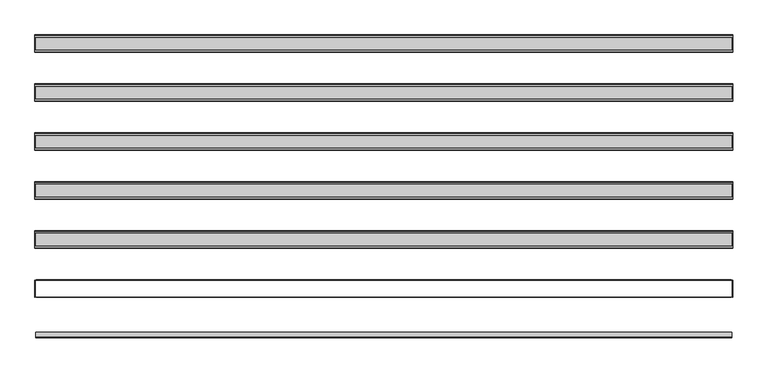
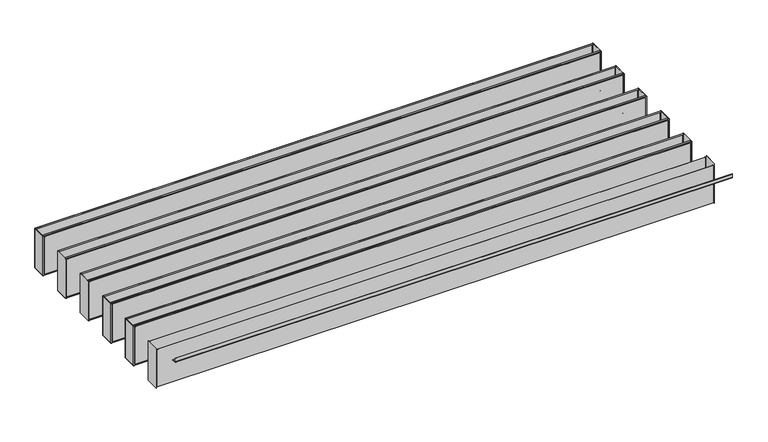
"""IFC4 building model written with IfcOpenShell, lengths in millimetres: proxy geometry, durlum_POLYLAM : durlum_POLYLAM 100."""

from ifc_helpers import new_model, si_unit, point, frame, frame_2d, origin, place, context, project, spatial, polyline, circle_curve, trimmed, segment, composite_curve, outline, extrude, source, transform, mapped, element, save
from ifc_brep_helpers import plane_surface, cylinder_surface, advanced_brep


def generic_models_e4749aa9(model_context):
    return source(origin(), model_context, "Body", "SolidModel", [
        extrude(outline(composite_curve([segment(polyline([(2.0, 2079.9), (2.0, 2054.0)]), True, "CONTINUOUS"), segment(trimmed(circle_curve(frame_2d((4.0, 2054.0)), 2.0), [point((2.0, 2054.0))], [point((4.0, 2052.0))], True, "CARTESIAN"), True, "CONTINUOUS"), segment(polyline([(4.0, 2052.0), (29.9, 2052.0), (29.9, 2050.0), (4.0, 2050.0)]), True, "CONTINUOUS"), segment(trimmed(circle_curve(frame_2d((4.0, 2054.0)), 4.0), [point((4.0, 2050.0))], [point((0.0, 2054.0))], False, "CARTESIAN"), True, "CONTINUOUS"), segment(polyline([(0.0, 2054.0), (0.0, 2079.9), (2.0, 2079.9)]), True, "CONTINUOUS")], self_intersect=False)), frame((-1990.0, 0.0, 0.0), z_axis=(1.0, 0.0, 0.0), x_axis=(0.0, 1.0, 0.0)), (0.0, 0.0, 1.0), 3980.0),
        extrude(outline(polyline([(1986.5, 1729.0), (-1986.5, 1729.0), (-1986.5, 1730.0), (1986.5, 1730.0), (1986.5, 1729.0)])), frame((0.0, 0.0, 1725.4), z_axis=(0.0, 0.0, 1.0), x_axis=(1.0, 0.0, 0.0)), (0.0, 0.0, 1.0), 283.0),
        extrude(outline(polyline([(1986.5, 1630.0), (-1986.5, 1630.0), (-1986.5, 1631.0), (1986.5, 1631.0), (1986.5, 1630.0)])), frame((0.0, 0.0, 1725.4), z_axis=(0.0, 0.0, 1.0), x_axis=(1.0, 0.0, 0.0)), (0.0, 0.0, 1.0), 283.0),
        extrude(outline(polyline([(1993.0, 1729.0), (1995.0, 1729.0), (1995.0, 1631.0), (1993.0, 1631.0), (1993.0, 1729.0)])), frame((0.0, 0.0, 1717.9), z_axis=(0.0, 0.0, 1.0), x_axis=(1.0, 0.0, 0.0)), (0.0, 0.0, 1.0), 298.0),
        extrude(outline(polyline([(-1995.0, 1729.0), (-1993.0, 1729.0), (-1993.0, 1631.0), (-1995.0, 1631.0), (-1995.0, 1729.0)])), frame((0.0, 0.0, 1717.9), z_axis=(0.0, 0.0, 1.0), x_axis=(1.0, 0.0, 0.0)), (0.0, 0.0, 1.0), 298.0),
        advanced_brep(
        [(1995.0, 1728.0, 2016.9), (1995.0, 1718.0, 2016.9), (1995.0, 1718.0, 2015.9), (1995.0, 1729.0, 2015.9), (1995.0, 1729.0, 1717.9), (1995.0, 1631.0, 1717.9), (1995.0, 1631.0, 2015.8155735), (1995.0, 1642.0, 2015.8155735), (1995.0, 1642.0, 2016.9), (1995.0, 1632.0, 2016.9), (1995.0, 1630.0, 2014.9), (1995.0, 1630.0, 1718.9), (1995.0, 1632.0, 1716.9), (1995.0, 1728.0, 1716.9), (1995.0, 1730.0, 1718.9), (1995.0, 1730.0, 2014.9), (-1995.0, 1728.0, 2016.9), (-1995.0, 1730.0, 2014.9), (-1995.0, 1730.0, 1718.9), (-1995.0, 1728.0, 1716.9), (-1995.0, 1632.0, 1716.9), (-1995.0, 1630.0, 1718.9), (-1995.0, 1630.0, 2014.9), (-1995.0, 1632.0, 2016.9), (-1995.0, 1642.0, 2016.9), (-1995.0, 1642.0, 2015.8155735), (-1995.0, 1631.0, 2015.8155735), (-1995.0, 1631.0, 1717.9), (-1995.0, 1729.0, 1717.9), (-1995.0, 1729.0, 2015.9), (-1995.0, 1718.0, 2015.9), (-1995.0, 1718.0, 2016.9), (-1986.5, 1729.0, 2008.4), (1986.5, 1729.0, 2008.4), (1986.5, 1729.0, 1725.4), (-1986.5, 1729.0, 1725.4), (1986.5, 1631.0, 2008.4), (-1986.5, 1631.0, 2008.4), (-1986.5, 1631.0, 1725.4), (1986.5, 1631.0, 1725.4), (-1986.5, 1630.0, 2008.4), (1986.5, 1630.0, 2008.4), (1986.5, 1630.0, 1725.4), (-1986.5, 1630.0, 1725.4), (1986.5, 1730.0, 2008.4), (-1986.5, 1730.0, 2008.4), (-1986.5, 1730.0, 1725.4), (1986.5, 1730.0, 1725.4)],
        [
            (0, 1),
            (1, 2),
            (2, 3),
            (3, 4),
            (4, 5),
            (5, 6),
            (6, 7),
            (7, 8),
            (8, 9),
            (9, 10, circle_curve(frame((1995.0, 1632.0, 2014.9), z_axis=(1.0, 0.0, 0.0), x_axis=(0.0, 1.0, 0.0)), 2.0)),
            (10, 11),
            (11, 12, circle_curve(frame((1995.0, 1632.0, 1718.9), z_axis=(1.0, 0.0, 0.0), x_axis=(0.0, 1.0, 0.0)), 2.0)),
            (12, 13),
            (13, 14, circle_curve(frame((1995.0, 1728.0, 1718.9), z_axis=(1.0, 0.0, 0.0), x_axis=(0.0, 1.0, 0.0)), 2.0)),
            (14, 15),
            (15, 0, circle_curve(frame((1995.0, 1728.0, 2014.9), z_axis=(1.0, 0.0, 0.0), x_axis=(0.0, 1.0, 0.0)), 2.0)),
            (16, 17, circle_curve(frame((-1995.0, 1728.0, 2014.9), z_axis=(-1.0, 0.0, 0.0), x_axis=(0.0, 1.0, 0.0)), 2.0)),
            (17, 18),
            (18, 19, circle_curve(frame((-1995.0, 1728.0, 1718.9), z_axis=(-1.0, 0.0, 0.0), x_axis=(0.0, 1.0, 0.0)), 2.0)),
            (19, 20),
            (20, 21, circle_curve(frame((-1995.0, 1632.0, 1718.9), z_axis=(-1.0, 0.0, 0.0), x_axis=(0.0, 1.0, 0.0)), 2.0)),
            (21, 22),
            (22, 23, circle_curve(frame((-1995.0, 1632.0, 2014.9), z_axis=(-1.0, 0.0, 0.0), x_axis=(0.0, 1.0, 0.0)), 2.0)),
            (23, 24),
            (24, 25),
            (25, 26),
            (26, 27),
            (27, 28),
            (28, 29),
            (29, 30),
            (30, 31),
            (31, 16),
            (0, 16),
            (31, 1),
            (30, 2),
            (29, 3),
            (28, 4),
            (32, 33),
            (33, 34),
            (34, 35),
            (35, 32),
            (27, 5),
            (26, 6),
            (36, 37),
            (37, 38),
            (38, 39),
            (39, 36),
            (25, 7),
            (24, 8),
            (23, 9),
            (10, 22),
            (21, 11),
            (40, 41),
            (41, 42),
            (42, 43),
            (43, 40),
            (12, 20),
            (19, 13),
            (14, 18),
            (17, 15),
            (44, 45),
            (45, 46),
            (46, 47),
            (47, 44),
            (44, 33),
            (32, 45),
            (36, 41),
            (40, 37),
            (35, 46),
            (43, 38),
            (34, 47),
            (42, 39),
        ],
        [
            plane_surface(frame((1995.0, 1718.0, 2016.9), z_axis=(1.0, 0.0, 0.0), x_axis=(0.0, -1.0, 0.0))),
            plane_surface(frame((-1995.0, 1718.0, 2016.9), z_axis=(-1.0, 0.0, 0.0), x_axis=(0.0, 1.0, 0.0))),
            plane_surface(frame((1995.0, 1728.0, 2016.9), z_axis=(0.0, 0.0, 1.0), x_axis=(-1.0, 0.0, 0.0))),
            plane_surface(frame((1995.0, 1718.0, 2016.9), z_axis=(0.0, -1.0, 0.0), x_axis=(-1.0, 0.0, 0.0))),
            plane_surface(frame((1995.0, 1718.0, 2015.9), z_axis=(0.0, 0.0, -1.0), x_axis=(-1.0, 0.0, 0.0))),
            plane_surface(frame((1995.0, 1729.0, 2015.9), z_axis=(0.0, -1.0, 0.0), x_axis=(-1.0, 0.0, 0.0))),
            plane_surface(frame((1995.0, 1729.0, 1717.9), z_axis=(0.0, 0.0, 1.0), x_axis=(-1.0, 0.0, 0.0))),
            plane_surface(frame((1995.0, 1631.0, 1717.9), z_axis=(0.0, 1.0, 0.0), x_axis=(-1.0, 0.0, 0.0))),
            plane_surface(frame((1995.0, 1631.0, 2015.8155735), z_axis=(0.0, 0.0, -1.0), x_axis=(-1.0, 0.0, 0.0))),
            plane_surface(frame((1995.0, 1642.0, 2015.8155735), z_axis=(0.0, 1.0, 0.0), x_axis=(-1.0, 0.0, 0.0))),
            plane_surface(frame((1995.0, 1642.0, 2016.9), z_axis=(0.0, 0.0, 1.0), x_axis=(-1.0, 0.0, 0.0))),
            plane_surface(frame((1995.0, 1630.0, 2014.9), z_axis=(0.0, -1.0, 0.0), x_axis=(-1.0, 0.0, 0.0))),
            plane_surface(frame((1995.0, 1632.0, 1716.9), z_axis=(0.0, 0.0, -1.0), x_axis=(-1.0, 0.0, 0.0))),
            plane_surface(frame((1995.0, 1730.0, 1718.9), z_axis=(0.0, 1.0, 0.0), x_axis=(-1.0, 0.0, 0.0))),
            cylinder_surface(frame((-1995.0, 1632.0, 2014.9), z_axis=(1.0, 0.0, 0.0), x_axis=(0.0, 1.0, 0.0)), 2.0),
            cylinder_surface(frame((-1995.0, 1632.0, 1718.9), z_axis=(1.0, 0.0, 0.0), x_axis=(0.0, 1.0, 0.0)), 2.0),
            cylinder_surface(frame((-1995.0, 1728.0, 1718.9), z_axis=(1.0, 0.0, 0.0), x_axis=(0.0, 1.0, 0.0)), 2.0),
            cylinder_surface(frame((-1995.0, 1728.0, 2014.9), z_axis=(1.0, 0.0, 0.0), x_axis=(0.0, 1.0, 0.0)), 2.0),
            plane_surface(frame((1986.5, 1630.0, 2008.4), z_axis=(0.0, 0.0, -1.0), x_axis=(0.0, 1.0, 0.0))),
            plane_surface(frame((-1986.5, 1630.0, 2008.4), z_axis=(1.0, 0.0, 0.0), x_axis=(0.0, 1.0, 0.0))),
            plane_surface(frame((-1986.5, 1630.0, 1725.4), z_axis=(0.0, 0.0, 1.0), x_axis=(0.0, 1.0, 0.0))),
            plane_surface(frame((1986.5, 1630.0, 1725.4), z_axis=(-1.0, 0.0, 0.0), x_axis=(0.0, 1.0, 0.0))),
        ],
        [
            (0, [[1, 2, 3, 4, 5, 6, 7, 8, 9, 10, 11, 12, 13, 14, 15, 16]]),
            (1, [[17, 18, 19, 20, 21, 22, 23, 24, 25, 26, 27, 28, 29, 30, 31, 32]]),
            (2, [[-1, 33, -32, 34]]),
            (3, [[-2, -34, -31, 35]]),
            (4, [[-3, -35, -30, 36]]),
            (5, [[-4, -36, -29, 37], [38, 39, 40, 41]]),
            (6, [[-5, -37, -28, 42]]),
            (7, [[-6, -42, -27, 43], [44, 45, 46, 47]]),
            (8, [[-7, -43, -26, 48]]),
            (9, [[-8, -48, -25, 49]]),
            (10, [[-9, -49, -24, 50]]),
            (11, [[-11, 51, -22, 52], [53, 54, 55, 56]]),
            (12, [[-13, 57, -20, 58]]),
            (13, [[-15, 59, -18, 60], [61, 62, 63, 64]]),
            (14, [[-10, -50, -23, -51]]),
            (15, [[-12, -52, -21, -57]]),
            (16, [[-14, -58, -19, -59]]),
            (17, [[-16, -60, -17, -33]]),
            (18, [[65, -38, 66, -61]]),
            (18, [[67, -53, 68, -44]]),
            (19, [[-66, -41, 69, -62]]),
            (19, [[-68, -56, 70, -45]]),
            (20, [[-69, -40, 71, -63]]),
            (20, [[-70, -55, 72, -46]]),
            (21, [[-65, -64, -71, -39]]),
            (21, [[-67, -47, -72, -54]]),
        ],
    ),
        extrude(outline(polyline([(1986.5, 1449.0), (-1986.5, 1449.0), (-1986.5, 1450.0), (1986.5, 1450.0), (1986.5, 1449.0)])), frame((0.0, 0.0, 1725.4), z_axis=(0.0, 0.0, 1.0), x_axis=(1.0, 0.0, 0.0)), (0.0, 0.0, 1.0), 283.0),
        extrude(outline(polyline([(1986.5, 1350.0), (-1986.5, 1350.0), (-1986.5, 1351.0), (1986.5, 1351.0), (1986.5, 1350.0)])), frame((0.0, 0.0, 1725.4), z_axis=(0.0, 0.0, 1.0), x_axis=(1.0, 0.0, 0.0)), (0.0, 0.0, 1.0), 283.0),
        extrude(outline(polyline([(1993.0, 1449.0), (1995.0, 1449.0), (1995.0, 1351.0), (1993.0, 1351.0), (1993.0, 1449.0)])), frame((0.0, 0.0, 1717.9), z_axis=(0.0, 0.0, 1.0), x_axis=(1.0, 0.0, 0.0)), (0.0, 0.0, 1.0), 298.0),
        extrude(outline(polyline([(-1995.0, 1449.0), (-1993.0, 1449.0), (-1993.0, 1351.0), (-1995.0, 1351.0), (-1995.0, 1449.0)])), frame((0.0, 0.0, 1717.9), z_axis=(0.0, 0.0, 1.0), x_axis=(1.0, 0.0, 0.0)), (0.0, 0.0, 1.0), 298.0),
        advanced_brep(
        [(1995.0, 1448.0, 2016.9), (1995.0, 1438.0, 2016.9), (1995.0, 1438.0, 2015.9), (1995.0, 1449.0, 2015.9), (1995.0, 1449.0, 1717.9), (1995.0, 1351.0, 1717.9), (1995.0, 1351.0, 2015.8155735), (1995.0, 1362.0, 2015.8155735), (1995.0, 1362.0, 2016.9), (1995.0, 1352.0, 2016.9), (1995.0, 1350.0, 2014.9), (1995.0, 1350.0, 1718.9), (1995.0, 1352.0, 1716.9), (1995.0, 1448.0, 1716.9), (1995.0, 1450.0, 1718.9), (1995.0, 1450.0, 2014.9), (-1995.0, 1448.0, 2016.9), (-1995.0, 1450.0, 2014.9), (-1995.0, 1450.0, 1718.9), (-1995.0, 1448.0, 1716.9), (-1995.0, 1352.0, 1716.9), (-1995.0, 1350.0, 1718.9), (-1995.0, 1350.0, 2014.9), (-1995.0, 1352.0, 2016.9), (-1995.0, 1362.0, 2016.9), (-1995.0, 1362.0, 2015.8155735), (-1995.0, 1351.0, 2015.8155735), (-1995.0, 1351.0, 1717.9), (-1995.0, 1449.0, 1717.9), (-1995.0, 1449.0, 2015.9), (-1995.0, 1438.0, 2015.9), (-1995.0, 1438.0, 2016.9), (-1986.5, 1449.0, 2008.4), (1986.5, 1449.0, 2008.4), (1986.5, 1449.0, 1725.4), (-1986.5, 1449.0, 1725.4), (1986.5, 1351.0, 2008.4), (-1986.5, 1351.0, 2008.4), (-1986.5, 1351.0, 1725.4), (1986.5, 1351.0, 1725.4), (-1986.5, 1350.0, 2008.4), (1986.5, 1350.0, 2008.4), (1986.5, 1350.0, 1725.4), (-1986.5, 1350.0, 1725.4), (1986.5, 1450.0, 2008.4), (-1986.5, 1450.0, 2008.4), (-1986.5, 1450.0, 1725.4), (1986.5, 1450.0, 1725.4)],
        [
            (0, 1),
            (1, 2),
            (2, 3),
            (3, 4),
            (4, 5),
            (5, 6),
            (6, 7),
            (7, 8),
            (8, 9),
            (9, 10, circle_curve(frame((1995.0, 1352.0, 2014.9), z_axis=(1.0, 0.0, 0.0), x_axis=(0.0, 1.0, 0.0)), 2.0)),
            (10, 11),
            (11, 12, circle_curve(frame((1995.0, 1352.0, 1718.9), z_axis=(1.0, 0.0, 0.0), x_axis=(0.0, 1.0, 0.0)), 2.0)),
            (12, 13),
            (13, 14, circle_curve(frame((1995.0, 1448.0, 1718.9), z_axis=(1.0, 0.0, 0.0), x_axis=(0.0, 1.0, 0.0)), 2.0)),
            (14, 15),
            (15, 0, circle_curve(frame((1995.0, 1448.0, 2014.9), z_axis=(1.0, 0.0, 0.0), x_axis=(0.0, 1.0, 0.0)), 2.0)),
            (16, 17, circle_curve(frame((-1995.0, 1448.0, 2014.9), z_axis=(-1.0, 0.0, 0.0), x_axis=(0.0, 1.0, 0.0)), 2.0)),
            (17, 18),
            (18, 19, circle_curve(frame((-1995.0, 1448.0, 1718.9), z_axis=(-1.0, 0.0, 0.0), x_axis=(0.0, 1.0, 0.0)), 2.0)),
            (19, 20),
            (20, 21, circle_curve(frame((-1995.0, 1352.0, 1718.9), z_axis=(-1.0, 0.0, 0.0), x_axis=(0.0, 1.0, 0.0)), 2.0)),
            (21, 22),
            (22, 23, circle_curve(frame((-1995.0, 1352.0, 2014.9), z_axis=(-1.0, 0.0, 0.0), x_axis=(0.0, 1.0, 0.0)), 2.0)),
            (23, 24),
            (24, 25),
            (25, 26),
            (26, 27),
            (27, 28),
            (28, 29),
            (29, 30),
            (30, 31),
            (31, 16),
            (0, 16),
            (31, 1),
            (30, 2),
            (29, 3),
            (28, 4),
            (32, 33),
            (33, 34),
            (34, 35),
            (35, 32),
            (27, 5),
            (26, 6),
            (36, 37),
            (37, 38),
            (38, 39),
            (39, 36),
            (25, 7),
            (24, 8),
            (23, 9),
            (10, 22),
            (21, 11),
            (40, 41),
            (41, 42),
            (42, 43),
            (43, 40),
            (12, 20),
            (19, 13),
            (14, 18),
            (17, 15),
            (44, 45),
            (45, 46),
            (46, 47),
            (47, 44),
            (44, 33),
            (32, 45),
            (36, 41),
            (40, 37),
            (35, 46),
            (43, 38),
            (34, 47),
            (42, 39),
        ],
        [
            plane_surface(frame((1995.0, 1438.0, 2016.9), z_axis=(1.0, 0.0, 0.0), x_axis=(0.0, -1.0, 0.0))),
            plane_surface(frame((-1995.0, 1438.0, 2016.9), z_axis=(-1.0, 0.0, 0.0), x_axis=(0.0, 1.0, 0.0))),
            plane_surface(frame((1995.0, 1448.0, 2016.9), z_axis=(0.0, 0.0, 1.0), x_axis=(-1.0, 0.0, 0.0))),
            plane_surface(frame((1995.0, 1438.0, 2016.9), z_axis=(0.0, -1.0, 0.0), x_axis=(-1.0, 0.0, 0.0))),
            plane_surface(frame((1995.0, 1438.0, 2015.9), z_axis=(0.0, 0.0, -1.0), x_axis=(-1.0, 0.0, 0.0))),
            plane_surface(frame((1995.0, 1449.0, 2015.9), z_axis=(0.0, -1.0, 0.0), x_axis=(-1.0, 0.0, 0.0))),
            plane_surface(frame((1995.0, 1449.0, 1717.9), z_axis=(0.0, 0.0, 1.0), x_axis=(-1.0, 0.0, 0.0))),
            plane_surface(frame((1995.0, 1351.0, 1717.9), z_axis=(0.0, 1.0, 0.0), x_axis=(-1.0, 0.0, 0.0))),
            plane_surface(frame((1995.0, 1351.0, 2015.8155735), z_axis=(0.0, 0.0, -1.0), x_axis=(-1.0, 0.0, 0.0))),
            plane_surface(frame((1995.0, 1362.0, 2015.8155735), z_axis=(0.0, 1.0, 0.0), x_axis=(-1.0, 0.0, 0.0))),
            plane_surface(frame((1995.0, 1362.0, 2016.9), z_axis=(0.0, 0.0, 1.0), x_axis=(-1.0, 0.0, 0.0))),
            plane_surface(frame((1995.0, 1350.0, 2014.9), z_axis=(0.0, -1.0, 0.0), x_axis=(-1.0, 0.0, 0.0))),
            plane_surface(frame((1995.0, 1352.0, 1716.9), z_axis=(0.0, 0.0, -1.0), x_axis=(-1.0, 0.0, 0.0))),
            plane_surface(frame((1995.0, 1450.0, 1718.9), z_axis=(0.0, 1.0, 0.0), x_axis=(-1.0, 0.0, 0.0))),
            cylinder_surface(frame((-1995.0, 1352.0, 2014.9), z_axis=(1.0, 0.0, 0.0), x_axis=(0.0, 1.0, 0.0)), 2.0),
            cylinder_surface(frame((-1995.0, 1352.0, 1718.9), z_axis=(1.0, 0.0, 0.0), x_axis=(0.0, 1.0, 0.0)), 2.0),
            cylinder_surface(frame((-1995.0, 1448.0, 1718.9), z_axis=(1.0, 0.0, 0.0), x_axis=(0.0, 1.0, 0.0)), 2.0),
            cylinder_surface(frame((-1995.0, 1448.0, 2014.9), z_axis=(1.0, 0.0, 0.0), x_axis=(0.0, 1.0, 0.0)), 2.0),
            plane_surface(frame((1986.5, 1350.0, 2008.4), z_axis=(0.0, 0.0, -1.0), x_axis=(0.0, 1.0, 0.0))),
            plane_surface(frame((-1986.5, 1350.0, 2008.4), z_axis=(1.0, 0.0, 0.0), x_axis=(0.0, 1.0, 0.0))),
            plane_surface(frame((-1986.5, 1350.0, 1725.4), z_axis=(0.0, 0.0, 1.0), x_axis=(0.0, 1.0, 0.0))),
            plane_surface(frame((1986.5, 1350.0, 1725.4), z_axis=(-1.0, 0.0, 0.0), x_axis=(0.0, 1.0, 0.0))),
        ],
        [
            (0, [[1, 2, 3, 4, 5, 6, 7, 8, 9, 10, 11, 12, 13, 14, 15, 16]]),
            (1, [[17, 18, 19, 20, 21, 22, 23, 24, 25, 26, 27, 28, 29, 30, 31, 32]]),
            (2, [[-1, 33, -32, 34]]),
            (3, [[-2, -34, -31, 35]]),
            (4, [[-3, -35, -30, 36]]),
            (5, [[-4, -36, -29, 37], [38, 39, 40, 41]]),
            (6, [[-5, -37, -28, 42]]),
            (7, [[-6, -42, -27, 43], [44, 45, 46, 47]]),
            (8, [[-7, -43, -26, 48]]),
            (9, [[-8, -48, -25, 49]]),
            (10, [[-9, -49, -24, 50]]),
            (11, [[-11, 51, -22, 52], [53, 54, 55, 56]]),
            (12, [[-13, 57, -20, 58]]),
            (13, [[-15, 59, -18, 60], [61, 62, 63, 64]]),
            (14, [[-10, -50, -23, -51]]),
            (15, [[-12, -52, -21, -57]]),
            (16, [[-14, -58, -19, -59]]),
            (17, [[-16, -60, -17, -33]]),
            (18, [[65, -38, 66, -61]]),
            (18, [[67, -53, 68, -44]]),
            (19, [[-66, -41, 69, -62]]),
            (19, [[-68, -56, 70, -45]]),
            (20, [[-69, -40, 71, -63]]),
            (20, [[-70, -55, 72, -46]]),
            (21, [[-65, -64, -71, -39]]),
            (21, [[-67, -47, -72, -54]]),
        ],
    ),
        extrude(outline(polyline([(1986.5, 1169.0), (-1986.5, 1169.0), (-1986.5, 1170.0), (1986.5, 1170.0), (1986.5, 1169.0)])), frame((0.0, 0.0, 1725.4), z_axis=(0.0, 0.0, 1.0), x_axis=(1.0, 0.0, 0.0)), (0.0, 0.0, 1.0), 283.0),
        extrude(outline(polyline([(1986.5, 1070.0), (-1986.5, 1070.0), (-1986.5, 1071.0), (1986.5, 1071.0), (1986.5, 1070.0)])), frame((0.0, 0.0, 1725.4), z_axis=(0.0, 0.0, 1.0), x_axis=(1.0, 0.0, 0.0)), (0.0, 0.0, 1.0), 283.0),
        extrude(outline(polyline([(1993.0, 1169.0), (1995.0, 1169.0), (1995.0, 1071.0), (1993.0, 1071.0), (1993.0, 1169.0)])), frame((0.0, 0.0, 1717.9), z_axis=(0.0, 0.0, 1.0), x_axis=(1.0, 0.0, 0.0)), (0.0, 0.0, 1.0), 298.0),
        extrude(outline(polyline([(-1995.0, 1169.0), (-1993.0, 1169.0), (-1993.0, 1071.0), (-1995.0, 1071.0), (-1995.0, 1169.0)])), frame((0.0, 0.0, 1717.9), z_axis=(0.0, 0.0, 1.0), x_axis=(1.0, 0.0, 0.0)), (0.0, 0.0, 1.0), 298.0),
        advanced_brep(
        [(1995.0, 1168.0, 2016.9), (1995.0, 1158.0, 2016.9), (1995.0, 1158.0, 2015.9), (1995.0, 1169.0, 2015.9), (1995.0, 1169.0, 1717.9), (1995.0, 1071.0, 1717.9), (1995.0, 1071.0, 2015.8155735), (1995.0, 1082.0, 2015.8155735), (1995.0, 1082.0, 2016.9), (1995.0, 1072.0, 2016.9), (1995.0, 1070.0, 2014.9), (1995.0, 1070.0, 1718.9), (1995.0, 1072.0, 1716.9), (1995.0, 1168.0, 1716.9), (1995.0, 1170.0, 1718.9), (1995.0, 1170.0, 2014.9), (-1995.0, 1168.0, 2016.9), (-1995.0, 1170.0, 2014.9), (-1995.0, 1170.0, 1718.9), (-1995.0, 1168.0, 1716.9), (-1995.0, 1072.0, 1716.9), (-1995.0, 1070.0, 1718.9), (-1995.0, 1070.0, 2014.9), (-1995.0, 1072.0, 2016.9), (-1995.0, 1082.0, 2016.9), (-1995.0, 1082.0, 2015.8155735), (-1995.0, 1071.0, 2015.8155735), (-1995.0, 1071.0, 1717.9), (-1995.0, 1169.0, 1717.9), (-1995.0, 1169.0, 2015.9), (-1995.0, 1158.0, 2015.9), (-1995.0, 1158.0, 2016.9), (-1986.5, 1169.0, 2008.4), (1986.5, 1169.0, 2008.4), (1986.5, 1169.0, 1725.4), (-1986.5, 1169.0, 1725.4), (1986.5, 1071.0, 2008.4), (-1986.5, 1071.0, 2008.4), (-1986.5, 1071.0, 1725.4), (1986.5, 1071.0, 1725.4), (-1986.5, 1070.0, 2008.4), (1986.5, 1070.0, 2008.4), (1986.5, 1070.0, 1725.4), (-1986.5, 1070.0, 1725.4), (1986.5, 1170.0, 2008.4), (-1986.5, 1170.0, 2008.4), (-1986.5, 1170.0, 1725.4), (1986.5, 1170.0, 1725.4)],
        [
            (0, 1),
            (1, 2),
            (2, 3),
            (3, 4),
            (4, 5),
            (5, 6),
            (6, 7),
            (7, 8),
            (8, 9),
            (9, 10, circle_curve(frame((1995.0, 1072.0, 2014.9), z_axis=(1.0, 0.0, 0.0), x_axis=(0.0, 1.0, 0.0)), 2.0)),
            (10, 11),
            (11, 12, circle_curve(frame((1995.0, 1072.0, 1718.9), z_axis=(1.0, 0.0, 0.0), x_axis=(0.0, 1.0, 0.0)), 2.0)),
            (12, 13),
            (13, 14, circle_curve(frame((1995.0, 1168.0, 1718.9), z_axis=(1.0, 0.0, 0.0), x_axis=(0.0, 1.0, 0.0)), 2.0)),
            (14, 15),
            (15, 0, circle_curve(frame((1995.0, 1168.0, 2014.9), z_axis=(1.0, 0.0, 0.0), x_axis=(0.0, 1.0, 0.0)), 2.0)),
            (16, 17, circle_curve(frame((-1995.0, 1168.0, 2014.9), z_axis=(-1.0, 0.0, 0.0), x_axis=(0.0, 1.0, 0.0)), 2.0)),
            (17, 18),
            (18, 19, circle_curve(frame((-1995.0, 1168.0, 1718.9), z_axis=(-1.0, 0.0, 0.0), x_axis=(0.0, 1.0, 0.0)), 2.0)),
            (19, 20),
            (20, 21, circle_curve(frame((-1995.0, 1072.0, 1718.9), z_axis=(-1.0, 0.0, 0.0), x_axis=(0.0, 1.0, 0.0)), 2.0)),
            (21, 22),
            (22, 23, circle_curve(frame((-1995.0, 1072.0, 2014.9), z_axis=(-1.0, 0.0, 0.0), x_axis=(0.0, 1.0, 0.0)), 2.0)),
            (23, 24),
            (24, 25),
            (25, 26),
            (26, 27),
            (27, 28),
            (28, 29),
            (29, 30),
            (30, 31),
            (31, 16),
            (0, 16),
            (31, 1),
            (30, 2),
            (29, 3),
            (28, 4),
            (32, 33),
            (33, 34),
            (34, 35),
            (35, 32),
            (27, 5),
            (26, 6),
            (36, 37),
            (37, 38),
            (38, 39),
            (39, 36),
            (25, 7),
            (24, 8),
            (23, 9),
            (10, 22),
            (21, 11),
            (40, 41),
            (41, 42),
            (42, 43),
            (43, 40),
            (12, 20),
            (19, 13),
            (14, 18),
            (17, 15),
            (44, 45),
            (45, 46),
            (46, 47),
            (47, 44),
            (44, 33),
            (32, 45),
            (36, 41),
            (40, 37),
            (35, 46),
            (43, 38),
            (34, 47),
            (42, 39),
        ],
        [
            plane_surface(frame((1995.0, 1158.0, 2016.9), z_axis=(1.0, 0.0, 0.0), x_axis=(0.0, -1.0, 0.0))),
            plane_surface(frame((-1995.0, 1158.0, 2016.9), z_axis=(-1.0, 0.0, 0.0), x_axis=(0.0, 1.0, 0.0))),
            plane_surface(frame((1995.0, 1168.0, 2016.9), z_axis=(0.0, 0.0, 1.0), x_axis=(-1.0, 0.0, 0.0))),
            plane_surface(frame((1995.0, 1158.0, 2016.9), z_axis=(0.0, -1.0, 0.0), x_axis=(-1.0, 0.0, 0.0))),
            plane_surface(frame((1995.0, 1158.0, 2015.9), z_axis=(0.0, 0.0, -1.0), x_axis=(-1.0, 0.0, 0.0))),
            plane_surface(frame((1995.0, 1169.0, 2015.9), z_axis=(0.0, -1.0, 0.0), x_axis=(-1.0, 0.0, 0.0))),
            plane_surface(frame((1995.0, 1169.0, 1717.9), z_axis=(0.0, 0.0, 1.0), x_axis=(-1.0, 0.0, 0.0))),
            plane_surface(frame((1995.0, 1071.0, 1717.9), z_axis=(0.0, 1.0, 0.0), x_axis=(-1.0, 0.0, 0.0))),
            plane_surface(frame((1995.0, 1071.0, 2015.8155735), z_axis=(0.0, 0.0, -1.0), x_axis=(-1.0, 0.0, 0.0))),
            plane_surface(frame((1995.0, 1082.0, 2015.8155735), z_axis=(0.0, 1.0, 0.0), x_axis=(-1.0, 0.0, 0.0))),
            plane_surface(frame((1995.0, 1082.0, 2016.9), z_axis=(0.0, 0.0, 1.0), x_axis=(-1.0, 0.0, 0.0))),
            plane_surface(frame((1995.0, 1070.0, 2014.9), z_axis=(0.0, -1.0, 0.0), x_axis=(-1.0, 0.0, 0.0))),
            plane_surface(frame((1995.0, 1072.0, 1716.9), z_axis=(0.0, 0.0, -1.0), x_axis=(-1.0, 0.0, 0.0))),
            plane_surface(frame((1995.0, 1170.0, 1718.9), z_axis=(0.0, 1.0, 0.0), x_axis=(-1.0, 0.0, 0.0))),
            cylinder_surface(frame((-1995.0, 1072.0, 2014.9), z_axis=(1.0, 0.0, 0.0), x_axis=(0.0, 1.0, 0.0)), 2.0),
            cylinder_surface(frame((-1995.0, 1072.0, 1718.9), z_axis=(1.0, 0.0, 0.0), x_axis=(0.0, 1.0, 0.0)), 2.0),
            cylinder_surface(frame((-1995.0, 1168.0, 1718.9), z_axis=(1.0, 0.0, 0.0), x_axis=(0.0, 1.0, 0.0)), 2.0),
            cylinder_surface(frame((-1995.0, 1168.0, 2014.9), z_axis=(1.0, 0.0, 0.0), x_axis=(0.0, 1.0, 0.0)), 2.0),
            plane_surface(frame((1986.5, 1070.0, 2008.4), z_axis=(0.0, 0.0, -1.0), x_axis=(0.0, 1.0, 0.0))),
            plane_surface(frame((-1986.5, 1070.0, 2008.4), z_axis=(1.0, 0.0, 0.0), x_axis=(0.0, 1.0, 0.0))),
            plane_surface(frame((-1986.5, 1070.0, 1725.4), z_axis=(0.0, 0.0, 1.0), x_axis=(0.0, 1.0, 0.0))),
            plane_surface(frame((1986.5, 1070.0, 1725.4), z_axis=(-1.0, 0.0, 0.0), x_axis=(0.0, 1.0, 0.0))),
        ],
        [
            (0, [[1, 2, 3, 4, 5, 6, 7, 8, 9, 10, 11, 12, 13, 14, 15, 16]]),
            (1, [[17, 18, 19, 20, 21, 22, 23, 24, 25, 26, 27, 28, 29, 30, 31, 32]]),
            (2, [[-1, 33, -32, 34]]),
            (3, [[-2, -34, -31, 35]]),
            (4, [[-3, -35, -30, 36]]),
            (5, [[-4, -36, -29, 37], [38, 39, 40, 41]]),
            (6, [[-5, -37, -28, 42]]),
            (7, [[-6, -42, -27, 43], [44, 45, 46, 47]]),
            (8, [[-7, -43, -26, 48]]),
            (9, [[-8, -48, -25, 49]]),
            (10, [[-9, -49, -24, 50]]),
            (11, [[-11, 51, -22, 52], [53, 54, 55, 56]]),
            (12, [[-13, 57, -20, 58]]),
            (13, [[-15, 59, -18, 60], [61, 62, 63, 64]]),
            (14, [[-10, -50, -23, -51]]),
            (15, [[-12, -52, -21, -57]]),
            (16, [[-14, -58, -19, -59]]),
            (17, [[-16, -60, -17, -33]]),
            (18, [[65, -38, 66, -61]]),
            (18, [[67, -53, 68, -44]]),
            (19, [[-66, -41, 69, -62]]),
            (19, [[-68, -56, 70, -45]]),
            (20, [[-69, -40, 71, -63]]),
            (20, [[-70, -55, 72, -46]]),
            (21, [[-65, -64, -71, -39]]),
            (21, [[-67, -47, -72, -54]]),
        ],
    ),
        extrude(outline(polyline([(1986.5, 889.0), (-1986.5, 889.0), (-1986.5, 890.0), (1986.5, 890.0), (1986.5, 889.0)])), frame((0.0, 0.0, 1725.4), z_axis=(0.0, 0.0, 1.0), x_axis=(1.0, 0.0, 0.0)), (0.0, 0.0, 1.0), 283.0),
        extrude(outline(polyline([(1986.5, 790.0), (-1986.5, 790.0), (-1986.5, 791.0), (1986.5, 791.0), (1986.5, 790.0)])), frame((0.0, 0.0, 1725.4), z_axis=(0.0, 0.0, 1.0), x_axis=(1.0, 0.0, 0.0)), (0.0, 0.0, 1.0), 283.0),
        extrude(outline(polyline([(1993.0, 889.0), (1995.0, 889.0), (1995.0, 791.0), (1993.0, 791.0), (1993.0, 889.0)])), frame((0.0, 0.0, 1717.9), z_axis=(0.0, 0.0, 1.0), x_axis=(1.0, 0.0, 0.0)), (0.0, 0.0, 1.0), 298.0),
        extrude(outline(polyline([(-1995.0, 889.0), (-1993.0, 889.0), (-1993.0, 791.0), (-1995.0, 791.0), (-1995.0, 889.0)])), frame((0.0, 0.0, 1717.9), z_axis=(0.0, 0.0, 1.0), x_axis=(1.0, 0.0, 0.0)), (0.0, 0.0, 1.0), 298.0),
        advanced_brep(
        [(1995.0, 888.0, 2016.9), (1995.0, 878.0, 2016.9), (1995.0, 878.0, 2015.9), (1995.0, 889.0, 2015.9), (1995.0, 889.0, 1717.9), (1995.0, 791.0, 1717.9), (1995.0, 791.0, 2015.8155735), (1995.0, 802.0, 2015.8155735), (1995.0, 802.0, 2016.9), (1995.0, 792.0, 2016.9), (1995.0, 790.0, 2014.9), (1995.0, 790.0, 1718.9), (1995.0, 792.0, 1716.9), (1995.0, 888.0, 1716.9), (1995.0, 890.0, 1718.9), (1995.0, 890.0, 2014.9), (-1995.0, 888.0, 2016.9), (-1995.0, 890.0, 2014.9), (-1995.0, 890.0, 1718.9), (-1995.0, 888.0, 1716.9), (-1995.0, 792.0, 1716.9), (-1995.0, 790.0, 1718.9), (-1995.0, 790.0, 2014.9), (-1995.0, 792.0, 2016.9), (-1995.0, 802.0, 2016.9), (-1995.0, 802.0, 2015.8155735), (-1995.0, 791.0, 2015.8155735), (-1995.0, 791.0, 1717.9), (-1995.0, 889.0, 1717.9), (-1995.0, 889.0, 2015.9), (-1995.0, 878.0, 2015.9), (-1995.0, 878.0, 2016.9), (-1986.5, 889.0, 2008.4), (1986.5, 889.0, 2008.4), (1986.5, 889.0, 1725.4), (-1986.5, 889.0, 1725.4), (1986.5, 791.0, 2008.4), (-1986.5, 791.0, 2008.4), (-1986.5, 791.0, 1725.4), (1986.5, 791.0, 1725.4), (-1986.5, 790.0, 2008.4), (1986.5, 790.0, 2008.4), (1986.5, 790.0, 1725.4), (-1986.5, 790.0, 1725.4), (1986.5, 890.0, 2008.4), (-1986.5, 890.0, 2008.4), (-1986.5, 890.0, 1725.4), (1986.5, 890.0, 1725.4)],
        [
            (0, 1),
            (1, 2),
            (2, 3),
            (3, 4),
            (4, 5),
            (5, 6),
            (6, 7),
            (7, 8),
            (8, 9),
            (9, 10, circle_curve(frame((1995.0, 792.0, 2014.9), z_axis=(1.0, 0.0, 0.0), x_axis=(0.0, 1.0, 0.0)), 2.0)),
            (10, 11),
            (11, 12, circle_curve(frame((1995.0, 792.0, 1718.9), z_axis=(1.0, 0.0, 0.0), x_axis=(0.0, 1.0, 0.0)), 2.0)),
            (12, 13),
            (13, 14, circle_curve(frame((1995.0, 888.0, 1718.9), z_axis=(1.0, 0.0, 0.0), x_axis=(0.0, 1.0, 0.0)), 2.0)),
            (14, 15),
            (15, 0, circle_curve(frame((1995.0, 888.0, 2014.9), z_axis=(1.0, 0.0, 0.0), x_axis=(0.0, 1.0, 0.0)), 2.0)),
            (16, 17, circle_curve(frame((-1995.0, 888.0, 2014.9), z_axis=(-1.0, 0.0, 0.0), x_axis=(0.0, 1.0, 0.0)), 2.0)),
            (17, 18),
            (18, 19, circle_curve(frame((-1995.0, 888.0, 1718.9), z_axis=(-1.0, 0.0, 0.0), x_axis=(0.0, 1.0, 0.0)), 2.0)),
            (19, 20),
            (20, 21, circle_curve(frame((-1995.0, 792.0, 1718.9), z_axis=(-1.0, 0.0, 0.0), x_axis=(0.0, 1.0, 0.0)), 2.0)),
            (21, 22),
            (22, 23, circle_curve(frame((-1995.0, 792.0, 2014.9), z_axis=(-1.0, 0.0, 0.0), x_axis=(0.0, 1.0, 0.0)), 2.0)),
            (23, 24),
            (24, 25),
            (25, 26),
            (26, 27),
            (27, 28),
            (28, 29),
            (29, 30),
            (30, 31),
            (31, 16),
            (0, 16),
            (31, 1),
            (30, 2),
            (29, 3),
            (28, 4),
            (32, 33),
            (33, 34),
            (34, 35),
            (35, 32),
            (27, 5),
            (26, 6),
            (36, 37),
            (37, 38),
            (38, 39),
            (39, 36),
            (25, 7),
            (24, 8),
            (23, 9),
            (10, 22),
            (21, 11),
            (40, 41),
            (41, 42),
            (42, 43),
            (43, 40),
            (12, 20),
            (19, 13),
            (14, 18),
            (17, 15),
            (44, 45),
            (45, 46),
            (46, 47),
            (47, 44),
            (44, 33),
            (32, 45),
            (36, 41),
            (40, 37),
            (35, 46),
            (43, 38),
            (34, 47),
            (42, 39),
        ],
        [
            plane_surface(frame((1995.0, 878.0, 2016.9), z_axis=(1.0, 0.0, 0.0), x_axis=(0.0, -1.0, 0.0))),
            plane_surface(frame((-1995.0, 878.0, 2016.9), z_axis=(-1.0, 0.0, 0.0), x_axis=(0.0, 1.0, 0.0))),
            plane_surface(frame((1995.0, 888.0, 2016.9), z_axis=(0.0, 0.0, 1.0), x_axis=(-1.0, 0.0, 0.0))),
            plane_surface(frame((1995.0, 878.0, 2016.9), z_axis=(0.0, -1.0, 0.0), x_axis=(-1.0, 0.0, 0.0))),
            plane_surface(frame((1995.0, 878.0, 2015.9), z_axis=(0.0, 0.0, -1.0), x_axis=(-1.0, 0.0, 0.0))),
            plane_surface(frame((1995.0, 889.0, 2015.9), z_axis=(0.0, -1.0, 0.0), x_axis=(-1.0, 0.0, 0.0))),
            plane_surface(frame((1995.0, 889.0, 1717.9), z_axis=(0.0, 0.0, 1.0), x_axis=(-1.0, 0.0, 0.0))),
            plane_surface(frame((1995.0, 791.0, 1717.9), z_axis=(0.0, 1.0, 0.0), x_axis=(-1.0, 0.0, 0.0))),
            plane_surface(frame((1995.0, 791.0, 2015.8155735), z_axis=(0.0, 0.0, -1.0), x_axis=(-1.0, 0.0, 0.0))),
            plane_surface(frame((1995.0, 802.0, 2015.8155735), z_axis=(0.0, 1.0, 0.0), x_axis=(-1.0, 0.0, 0.0))),
            plane_surface(frame((1995.0, 802.0, 2016.9), z_axis=(0.0, 0.0, 1.0), x_axis=(-1.0, 0.0, 0.0))),
            plane_surface(frame((1995.0, 790.0, 2014.9), z_axis=(0.0, -1.0, 0.0), x_axis=(-1.0, 0.0, 0.0))),
            plane_surface(frame((1995.0, 792.0, 1716.9), z_axis=(0.0, 0.0, -1.0), x_axis=(-1.0, 0.0, 0.0))),
            plane_surface(frame((1995.0, 890.0, 1718.9), z_axis=(0.0, 1.0, 0.0), x_axis=(-1.0, 0.0, 0.0))),
            cylinder_surface(frame((-1995.0, 792.0, 2014.9), z_axis=(1.0, 0.0, 0.0), x_axis=(0.0, 1.0, 0.0)), 2.0),
            cylinder_surface(frame((-1995.0, 792.0, 1718.9), z_axis=(1.0, 0.0, 0.0), x_axis=(0.0, 1.0, 0.0)), 2.0),
            cylinder_surface(frame((-1995.0, 888.0, 1718.9), z_axis=(1.0, 0.0, 0.0), x_axis=(0.0, 1.0, 0.0)), 2.0),
            cylinder_surface(frame((-1995.0, 888.0, 2014.9), z_axis=(1.0, 0.0, 0.0), x_axis=(0.0, 1.0, 0.0)), 2.0),
            plane_surface(frame((1986.5, 790.0, 2008.4), z_axis=(0.0, 0.0, -1.0), x_axis=(0.0, 1.0, 0.0))),
            plane_surface(frame((-1986.5, 790.0, 2008.4), z_axis=(1.0, 0.0, 0.0), x_axis=(0.0, 1.0, 0.0))),
            plane_surface(frame((-1986.5, 790.0, 1725.4), z_axis=(0.0, 0.0, 1.0), x_axis=(0.0, 1.0, 0.0))),
            plane_surface(frame((1986.5, 790.0, 1725.4), z_axis=(-1.0, 0.0, 0.0), x_axis=(0.0, 1.0, 0.0))),
        ],
        [
            (0, [[1, 2, 3, 4, 5, 6, 7, 8, 9, 10, 11, 12, 13, 14, 15, 16]]),
            (1, [[17, 18, 19, 20, 21, 22, 23, 24, 25, 26, 27, 28, 29, 30, 31, 32]]),
            (2, [[-1, 33, -32, 34]]),
            (3, [[-2, -34, -31, 35]]),
            (4, [[-3, -35, -30, 36]]),
            (5, [[-4, -36, -29, 37], [38, 39, 40, 41]]),
            (6, [[-5, -37, -28, 42]]),
            (7, [[-6, -42, -27, 43], [44, 45, 46, 47]]),
            (8, [[-7, -43, -26, 48]]),
            (9, [[-8, -48, -25, 49]]),
            (10, [[-9, -49, -24, 50]]),
            (11, [[-11, 51, -22, 52], [53, 54, 55, 56]]),
            (12, [[-13, 57, -20, 58]]),
            (13, [[-15, 59, -18, 60], [61, 62, 63, 64]]),
            (14, [[-10, -50, -23, -51]]),
            (15, [[-12, -52, -21, -57]]),
            (16, [[-14, -58, -19, -59]]),
            (17, [[-16, -60, -17, -33]]),
            (18, [[65, -38, 66, -61]]),
            (18, [[67, -53, 68, -44]]),
            (19, [[-66, -41, 69, -62]]),
            (19, [[-68, -56, 70, -45]]),
            (20, [[-69, -40, 71, -63]]),
            (20, [[-70, -55, 72, -46]]),
            (21, [[-65, -64, -71, -39]]),
            (21, [[-67, -47, -72, -54]]),
        ],
    ),
        extrude(outline(polyline([(1986.5, 609.0), (-1986.5, 609.0), (-1986.5, 610.0), (1986.5, 610.0), (1986.5, 609.0)])), frame((0.0, 0.0, 1725.4), z_axis=(0.0, 0.0, 1.0), x_axis=(1.0, 0.0, 0.0)), (0.0, 0.0, 1.0), 283.0),
        extrude(outline(polyline([(1986.5, 510.0), (-1986.5, 510.0), (-1986.5, 511.0), (1986.5, 511.0), (1986.5, 510.0)])), frame((0.0, 0.0, 1725.4), z_axis=(0.0, 0.0, 1.0), x_axis=(1.0, 0.0, 0.0)), (0.0, 0.0, 1.0), 283.0),
        extrude(outline(polyline([(1993.0, 609.0), (1995.0, 609.0), (1995.0, 511.0), (1993.0, 511.0), (1993.0, 609.0)])), frame((0.0, 0.0, 1717.9), z_axis=(0.0, 0.0, 1.0), x_axis=(1.0, 0.0, 0.0)), (0.0, 0.0, 1.0), 298.0),
        extrude(outline(polyline([(-1995.0, 609.0), (-1993.0, 609.0), (-1993.0, 511.0), (-1995.0, 511.0), (-1995.0, 609.0)])), frame((0.0, 0.0, 1717.9), z_axis=(0.0, 0.0, 1.0), x_axis=(1.0, 0.0, 0.0)), (0.0, 0.0, 1.0), 298.0),
        advanced_brep(
        [(1995.0, 608.0, 2016.9), (1995.0, 598.0, 2016.9), (1995.0, 598.0, 2015.9), (1995.0, 609.0, 2015.9), (1995.0, 609.0, 1717.9), (1995.0, 511.0, 1717.9), (1995.0, 511.0, 2015.8155735), (1995.0, 522.0, 2015.8155735), (1995.0, 522.0, 2016.9), (1995.0, 512.0, 2016.9), (1995.0, 510.0, 2014.9), (1995.0, 510.0, 1718.9), (1995.0, 512.0, 1716.9), (1995.0, 608.0, 1716.9), (1995.0, 610.0, 1718.9), (1995.0, 610.0, 2014.9), (-1995.0, 608.0, 2016.9), (-1995.0, 610.0, 2014.9), (-1995.0, 610.0, 1718.9), (-1995.0, 608.0, 1716.9), (-1995.0, 512.0, 1716.9), (-1995.0, 510.0, 1718.9), (-1995.0, 510.0, 2014.9), (-1995.0, 512.0, 2016.9), (-1995.0, 522.0, 2016.9), (-1995.0, 522.0, 2015.8155735), (-1995.0, 511.0, 2015.8155735), (-1995.0, 511.0, 1717.9), (-1995.0, 609.0, 1717.9), (-1995.0, 609.0, 2015.9), (-1995.0, 598.0, 2015.9), (-1995.0, 598.0, 2016.9), (-1986.5, 609.0, 2008.4), (1986.5, 609.0, 2008.4), (1986.5, 609.0, 1725.4), (-1986.5, 609.0, 1725.4), (1986.5, 511.0, 2008.4), (-1986.5, 511.0, 2008.4), (-1986.5, 511.0, 1725.4), (1986.5, 511.0, 1725.4), (-1986.5, 510.0, 2008.4), (1986.5, 510.0, 2008.4), (1986.5, 510.0, 1725.4), (-1986.5, 510.0, 1725.4), (1986.5, 610.0, 2008.4), (-1986.5, 610.0, 2008.4), (-1986.5, 610.0, 1725.4), (1986.5, 610.0, 1725.4)],
        [
            (0, 1),
            (1, 2),
            (2, 3),
            (3, 4),
            (4, 5),
            (5, 6),
            (6, 7),
            (7, 8),
            (8, 9),
            (9, 10, circle_curve(frame((1995.0, 512.0, 2014.9), z_axis=(1.0, 0.0, 0.0), x_axis=(0.0, 1.0, 0.0)), 2.0)),
            (10, 11),
            (11, 12, circle_curve(frame((1995.0, 512.0, 1718.9), z_axis=(1.0, 0.0, 0.0), x_axis=(0.0, 1.0, 0.0)), 2.0)),
            (12, 13),
            (13, 14, circle_curve(frame((1995.0, 608.0, 1718.9), z_axis=(1.0, 0.0, 0.0), x_axis=(0.0, 1.0, 0.0)), 2.0)),
            (14, 15),
            (15, 0, circle_curve(frame((1995.0, 608.0, 2014.9), z_axis=(1.0, 0.0, 0.0), x_axis=(0.0, 1.0, 0.0)), 2.0)),
            (16, 17, circle_curve(frame((-1995.0, 608.0, 2014.9), z_axis=(-1.0, 0.0, 0.0), x_axis=(0.0, 1.0, 0.0)), 2.0)),
            (17, 18),
            (18, 19, circle_curve(frame((-1995.0, 608.0, 1718.9), z_axis=(-1.0, 0.0, 0.0), x_axis=(0.0, 1.0, 0.0)), 2.0)),
            (19, 20),
            (20, 21, circle_curve(frame((-1995.0, 512.0, 1718.9), z_axis=(-1.0, 0.0, 0.0), x_axis=(0.0, 1.0, 0.0)), 2.0)),
            (21, 22),
            (22, 23, circle_curve(frame((-1995.0, 512.0, 2014.9), z_axis=(-1.0, 0.0, 0.0), x_axis=(0.0, 1.0, 0.0)), 2.0)),
            (23, 24),
            (24, 25),
            (25, 26),
            (26, 27),
            (27, 28),
            (28, 29),
            (29, 30),
            (30, 31),
            (31, 16),
            (0, 16),
            (31, 1),
            (30, 2),
            (29, 3),
            (28, 4),
            (32, 33),
            (33, 34),
            (34, 35),
            (35, 32),
            (27, 5),
            (26, 6),
            (36, 37),
            (37, 38),
            (38, 39),
            (39, 36),
            (25, 7),
            (24, 8),
            (23, 9),
            (10, 22),
            (21, 11),
            (40, 41),
            (41, 42),
            (42, 43),
            (43, 40),
            (12, 20),
            (19, 13),
            (14, 18),
            (17, 15),
            (44, 45),
            (45, 46),
            (46, 47),
            (47, 44),
            (44, 33),
            (32, 45),
            (36, 41),
            (40, 37),
            (35, 46),
            (43, 38),
            (34, 47),
            (42, 39),
        ],
        [
            plane_surface(frame((1995.0, 598.0, 2016.9), z_axis=(1.0, 0.0, 0.0), x_axis=(0.0, -1.0, 0.0))),
            plane_surface(frame((-1995.0, 598.0, 2016.9), z_axis=(-1.0, 0.0, 0.0), x_axis=(0.0, 1.0, 0.0))),
            plane_surface(frame((1995.0, 608.0, 2016.9), z_axis=(0.0, 0.0, 1.0), x_axis=(-1.0, 0.0, 0.0))),
            plane_surface(frame((1995.0, 598.0, 2016.9), z_axis=(0.0, -1.0, 0.0), x_axis=(-1.0, 0.0, 0.0))),
            plane_surface(frame((1995.0, 598.0, 2015.9), z_axis=(0.0, 0.0, -1.0), x_axis=(-1.0, 0.0, 0.0))),
            plane_surface(frame((1995.0, 609.0, 2015.9), z_axis=(0.0, -1.0, 0.0), x_axis=(-1.0, 0.0, 0.0))),
            plane_surface(frame((1995.0, 609.0, 1717.9), z_axis=(0.0, 0.0, 1.0), x_axis=(-1.0, 0.0, 0.0))),
            plane_surface(frame((1995.0, 511.0, 1717.9), z_axis=(0.0, 1.0, 0.0), x_axis=(-1.0, 0.0, 0.0))),
            plane_surface(frame((1995.0, 511.0, 2015.8155735), z_axis=(0.0, 0.0, -1.0), x_axis=(-1.0, 0.0, 0.0))),
            plane_surface(frame((1995.0, 522.0, 2015.8155735), z_axis=(0.0, 1.0, 0.0), x_axis=(-1.0, 0.0, 0.0))),
            plane_surface(frame((1995.0, 522.0, 2016.9), z_axis=(0.0, 0.0, 1.0), x_axis=(-1.0, 0.0, 0.0))),
            plane_surface(frame((1995.0, 510.0, 2014.9), z_axis=(0.0, -1.0, 0.0), x_axis=(-1.0, 0.0, 0.0))),
            plane_surface(frame((1995.0, 512.0, 1716.9), z_axis=(0.0, 0.0, -1.0), x_axis=(-1.0, 0.0, 0.0))),
            plane_surface(frame((1995.0, 610.0, 1718.9), z_axis=(0.0, 1.0, 0.0), x_axis=(-1.0, 0.0, 0.0))),
            cylinder_surface(frame((-1995.0, 512.0, 2014.9), z_axis=(1.0, 0.0, 0.0), x_axis=(0.0, 1.0, 0.0)), 2.0),
            cylinder_surface(frame((-1995.0, 512.0, 1718.9), z_axis=(1.0, 0.0, 0.0), x_axis=(0.0, 1.0, 0.0)), 2.0),
            cylinder_surface(frame((-1995.0, 608.0, 1718.9), z_axis=(1.0, 0.0, 0.0), x_axis=(0.0, 1.0, 0.0)), 2.0),
            cylinder_surface(frame((-1995.0, 608.0, 2014.9), z_axis=(1.0, 0.0, 0.0), x_axis=(0.0, 1.0, 0.0)), 2.0),
            plane_surface(frame((1986.5, 510.0, 2008.4), z_axis=(0.0, 0.0, -1.0), x_axis=(0.0, 1.0, 0.0))),
            plane_surface(frame((-1986.5, 510.0, 2008.4), z_axis=(1.0, 0.0, 0.0), x_axis=(0.0, 1.0, 0.0))),
            plane_surface(frame((-1986.5, 510.0, 1725.4), z_axis=(0.0, 0.0, 1.0), x_axis=(0.0, 1.0, 0.0))),
            plane_surface(frame((1986.5, 510.0, 1725.4), z_axis=(-1.0, 0.0, 0.0), x_axis=(0.0, 1.0, 0.0))),
        ],
        [
            (0, [[1, 2, 3, 4, 5, 6, 7, 8, 9, 10, 11, 12, 13, 14, 15, 16]]),
            (1, [[17, 18, 19, 20, 21, 22, 23, 24, 25, 26, 27, 28, 29, 30, 31, 32]]),
            (2, [[-1, 33, -32, 34]]),
            (3, [[-2, -34, -31, 35]]),
            (4, [[-3, -35, -30, 36]]),
            (5, [[-4, -36, -29, 37], [38, 39, 40, 41]]),
            (6, [[-5, -37, -28, 42]]),
            (7, [[-6, -42, -27, 43], [44, 45, 46, 47]]),
            (8, [[-7, -43, -26, 48]]),
            (9, [[-8, -48, -25, 49]]),
            (10, [[-9, -49, -24, 50]]),
            (11, [[-11, 51, -22, 52], [53, 54, 55, 56]]),
            (12, [[-13, 57, -20, 58]]),
            (13, [[-15, 59, -18, 60], [61, 62, 63, 64]]),
            (14, [[-10, -50, -23, -51]]),
            (15, [[-12, -52, -21, -57]]),
            (16, [[-14, -58, -19, -59]]),
            (17, [[-16, -60, -17, -33]]),
            (18, [[65, -38, 66, -61]]),
            (18, [[67, -53, 68, -44]]),
            (19, [[-66, -41, 69, -62]]),
            (19, [[-68, -56, 70, -45]]),
            (20, [[-69, -40, 71, -63]]),
            (20, [[-70, -55, 72, -46]]),
            (21, [[-65, -64, -71, -39]]),
            (21, [[-67, -47, -72, -54]]),
        ],
    ),
        extrude(outline(polyline([(1986.5, 329.0), (-1986.5, 329.0), (-1986.5, 330.0), (1986.5, 330.0), (1986.5, 329.0)])), frame((0.0, 0.0, 1725.4), z_axis=(0.0, 0.0, 1.0), x_axis=(1.0, 0.0, 0.0)), (0.0, 0.0, 1.0), 283.0),
        extrude(outline(polyline([(1986.5, 230.0), (-1986.5, 230.0), (-1986.5, 231.0), (1986.5, 231.0), (1986.5, 230.0)])), frame((0.0, 0.0, 1725.4), z_axis=(0.0, 0.0, 1.0), x_axis=(1.0, 0.0, 0.0)), (0.0, 0.0, 1.0), 283.0),
        extrude(outline(polyline([(1993.0, 329.0), (1995.0, 329.0), (1995.0, 231.0), (1993.0, 231.0), (1993.0, 329.0)])), frame((0.0, 0.0, 1717.9), z_axis=(0.0, 0.0, 1.0), x_axis=(1.0, 0.0, 0.0)), (0.0, 0.0, 1.0), 298.0),
        extrude(outline(polyline([(-1995.0, 329.0), (-1993.0, 329.0), (-1993.0, 231.0), (-1995.0, 231.0), (-1995.0, 329.0)])), frame((0.0, 0.0, 1717.9), z_axis=(0.0, 0.0, 1.0), x_axis=(1.0, 0.0, 0.0)), (0.0, 0.0, 1.0), 298.0),
    ])


if __name__ == "__main__":
    model = new_model("IFC4")
    model_context = context("Model", 3, world=origin())
    ifc_project = project(units=[si_unit("LENGTHUNIT", "METRE", prefix="MILLI")], contexts=[model_context])
    site = spatial("IfcSite", under=ifc_project)
    building = spatial("IfcBuilding", under=site)
    placement = place(None, origin())
    generic_models_shape = generic_models_e4749aa9(model_context)
    element("IfcBuildingElementProxy", 1, Name="durlum_POLYLAM : durlum_POLYLAM 100", ObjectType="durlum_POLYLAM : durlum_POLYLAM 100", at=placement, inside=building, context=model_context, shape_type="MappedRepresentation", body=[
        mapped(generic_models_shape, transform((0.0, 0.0, 0.0), x_axis=(1.0, 0.0, 0.0), y_axis=(0.0, 1.0, 0.0), z_axis=(0.0, 0.0, 1.0))),
    ])
    save(model, "model.ifc")
